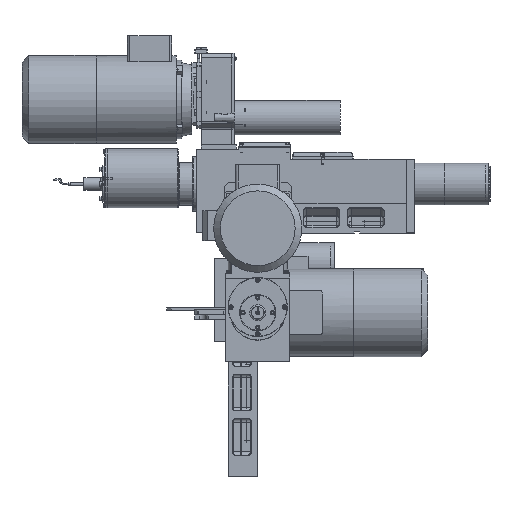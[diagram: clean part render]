
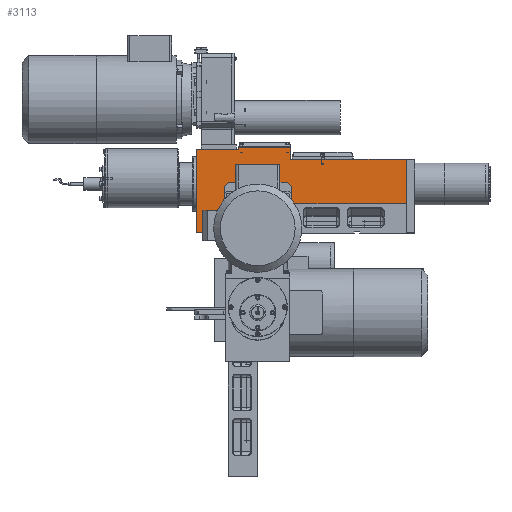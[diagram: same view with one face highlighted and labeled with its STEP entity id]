
A CAD part, front view. The second image highlights one B-rep face of the part: STEP entity #3113.
In plain terms, the highlighted planar face has unit normal (0, -1, 0).
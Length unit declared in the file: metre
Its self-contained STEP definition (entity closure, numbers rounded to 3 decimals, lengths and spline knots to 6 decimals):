
#3113 = ADVANCED_FACE( '', ( #5014 ), #5015, .T. );
#5014 = FACE_OUTER_BOUND( '', #9328, .T. );
#5015 = PLANE( '', #9329 );
#9328 = EDGE_LOOP( '', ( #15216, #15217, #15218, #15219, #15220, #15221, #15222, #15223, #15224, #15225 ) );
#9329 = AXIS2_PLACEMENT_3D( '', #15226, #15227, #15228 );
#15216 = ORIENTED_EDGE( '', *, *, #19256, .T. );
#15217 = ORIENTED_EDGE( '', *, *, #19260, .T. );
#15218 = ORIENTED_EDGE( '', *, *, #19261, .F. );
#15219 = ORIENTED_EDGE( '', *, *, #19233, .T. );
#15220 = ORIENTED_EDGE( '', *, *, #19240, .T. );
#15221 = ORIENTED_EDGE( '', *, *, #19247, .T. );
#15222 = ORIENTED_EDGE( '', *, *, #19262, .T. );
#15223 = ORIENTED_EDGE( '', *, *, #19263, .T. );
#15224 = ORIENTED_EDGE( '', *, *, #19264, .T. );
#15225 = ORIENTED_EDGE( '', *, *, #19265, .T. );
#15226 = CARTESIAN_POINT( '', ( 0.337, -0.003889, 0. ) );
#15227 = DIRECTION( '', ( 0., -1., 0. ) );
#15228 = DIRECTION( '', ( 1., 0., 0. ) );
#19233 = EDGE_CURVE( '', #22100, #22098, #22101, .T. );
#19240 = EDGE_CURVE( '', #22098, #22110, #22112, .T. );
#19247 = EDGE_CURVE( '', #22110, #22121, #22123, .T. );
#19256 = EDGE_CURVE( '', #22138, #22139, #22140, .T. );
#19260 = EDGE_CURVE( '', #22139, #22143, #22145, .T. );
#19261 = EDGE_CURVE( '', #22100, #22143, #22146, .T. );
#19262 = EDGE_CURVE( '', #22121, #22147, #22148, .T. );
#19263 = EDGE_CURVE( '', #22147, #22149, #22150, .T. );
#19264 = EDGE_CURVE( '', #22149, #22151, #22152, .T. );
#19265 = EDGE_CURVE( '', #22151, #22138, #22153, .T. );
#22098 = VERTEX_POINT( '', #27716 );
#22100 = VERTEX_POINT( '', #27719 );
#22101 = LINE( '', #27720, #27721 );
#22110 = VERTEX_POINT( '', #27735 );
#22112 = LINE( '', #27738, #27739 );
#22121 = VERTEX_POINT( '', #27753 );
#22123 = LINE( '', #27756, #27757 );
#22138 = VERTEX_POINT( '', #27780 );
#22139 = VERTEX_POINT( '', #27781 );
#22140 = LINE( '', #27782, #27783 );
#22143 = VERTEX_POINT( '', #27788 );
#22145 = LINE( '', #27791, #27792 );
#22146 = LINE( '', #27793, #27794 );
#22147 = VERTEX_POINT( '', #27795 );
#22148 = LINE( '', #27796, #27797 );
#22149 = VERTEX_POINT( '', #27798 );
#22150 = LINE( '', #27799, #27800 );
#22151 = VERTEX_POINT( '', #27801 );
#22152 = LINE( '', #27802, #27803 );
#22153 = LINE( '', #27804, #27805 );
#27716 = CARTESIAN_POINT( '', ( -0.005, -0.003889, 0. ) );
#27719 = CARTESIAN_POINT( '', ( -0.005, -0.003889, -0.059 ) );
#27720 = CARTESIAN_POINT( '', ( -0.005, -0.003889, -0.059 ) );
#27721 = VECTOR( '', #31515, 1. );
#27735 = CARTESIAN_POINT( '', ( 0.337, -0.003889, 0. ) );
#27738 = CARTESIAN_POINT( '', ( -0.005, -0.003889, 0. ) );
#27739 = VECTOR( '', #31522, 1. );
#27753 = CARTESIAN_POINT( '', ( 0.337, -0.003889, 0.09 ) );
#27756 = CARTESIAN_POINT( '', ( 0.337, -0.003889, 0. ) );
#27757 = VECTOR( '', #31529, 1. );
#27780 = CARTESIAN_POINT( '', ( -0.003, -0.003889, 0.11 ) );
#27781 = CARTESIAN_POINT( '', ( -0.088, -0.003889, 0.11 ) );
#27782 = CARTESIAN_POINT( '', ( 0.14575, -0.003889, 0.11 ) );
#27783 = VECTOR( '', #31538, 1. );
#27788 = CARTESIAN_POINT( '', ( -0.088, -0.003889, -0.059 ) );
#27791 = CARTESIAN_POINT( '', ( -0.088, -0.003889, -0.059 ) );
#27792 = VECTOR( '', #31542, 1. );
#27793 = CARTESIAN_POINT( '', ( -0.005, -0.003889, -0.059 ) );
#27794 = VECTOR( '', #31543, 1. );
#27795 = CARTESIAN_POINT( '', ( 0.102, -0.003889, 0.09 ) );
#27796 = CARTESIAN_POINT( '', ( -0.005, -0.003889, 0.09 ) );
#27797 = VECTOR( '', #31544, 1. );
#27798 = CARTESIAN_POINT( '', ( 0.102, -0.003889, 0.115 ) );
#27799 = CARTESIAN_POINT( '', ( 0.102, -0.003889, 0.09 ) );
#27800 = VECTOR( '', #31545, 1. );
#27801 = CARTESIAN_POINT( '', ( -0.003, -0.003889, 0.115 ) );
#27802 = CARTESIAN_POINT( '', ( -0.005, -0.003889, 0.115 ) );
#27803 = VECTOR( '', #31546, 1. );
#27804 = CARTESIAN_POINT( '', ( -0.003, -0.003889, 0.058735 ) );
#27805 = VECTOR( '', #31547, 1. );
#31515 = DIRECTION( '', ( 0., 0., 1. ) );
#31522 = DIRECTION( '', ( 1., 0., 0. ) );
#31529 = DIRECTION( '', ( 0., 0., 1. ) );
#31538 = DIRECTION( '', ( -1., 0., 0. ) );
#31542 = DIRECTION( '', ( 0., 0., -1. ) );
#31543 = DIRECTION( '', ( -1., 0., 0. ) );
#31544 = DIRECTION( '', ( -1., 0., 0. ) );
#31545 = DIRECTION( '', ( 0., 0., 1. ) );
#31546 = DIRECTION( '', ( -1., 0., 0. ) );
#31547 = DIRECTION( '', ( 0., 0., -1. ) );
